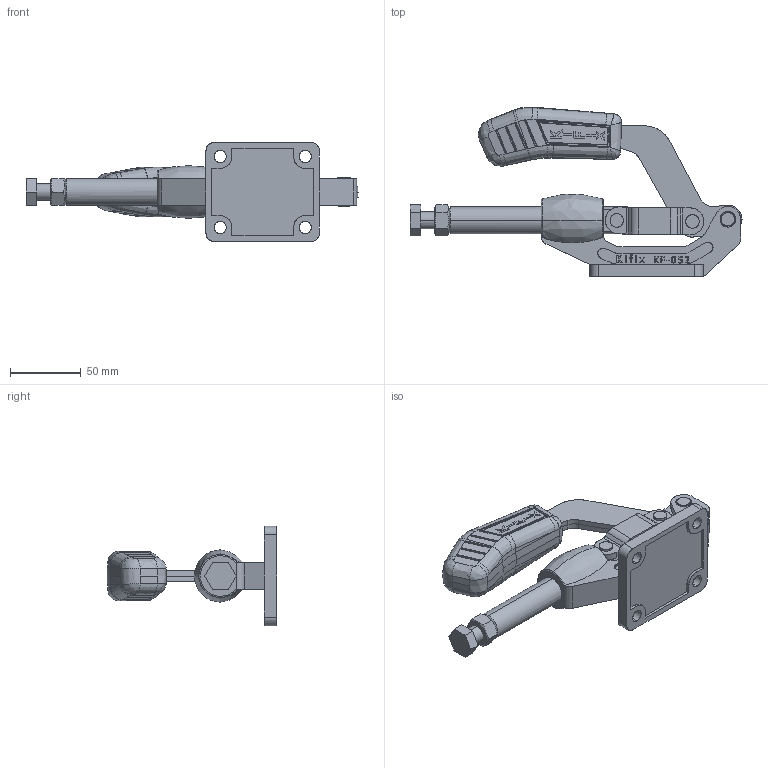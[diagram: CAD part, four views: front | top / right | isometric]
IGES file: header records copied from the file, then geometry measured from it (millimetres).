
Start section: SolidWorks IGES file using analytic representation for surfaces
Global section: file name: C:\Projetos\Grampos\KF-052\KF-052.IGS; native system: SolidWorks 2013; preprocessor: SolidWorks 2013; author: Ricardo; date: 140825.150453; units: millimetre
Bounding box: 234.12 x 119.77 x 70 mm (x, y, z)
Surface area: 88886.7 mm2 (no closed solid volume)
Topology: 0 solids, 0 shells, 1022 faces, 11998 edges, 11967 vertices
Faces by surface type: bspline 766, revolution 256
